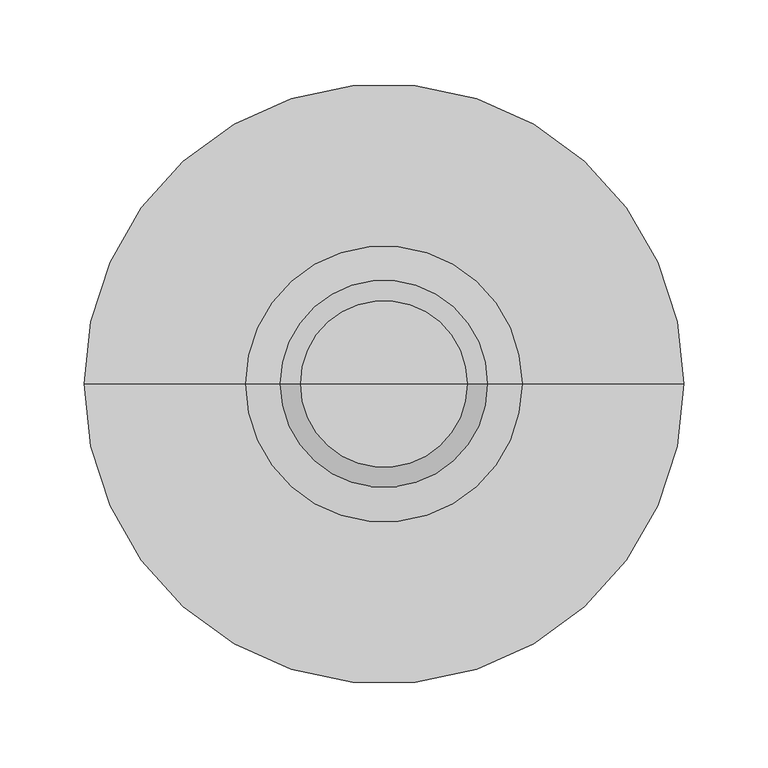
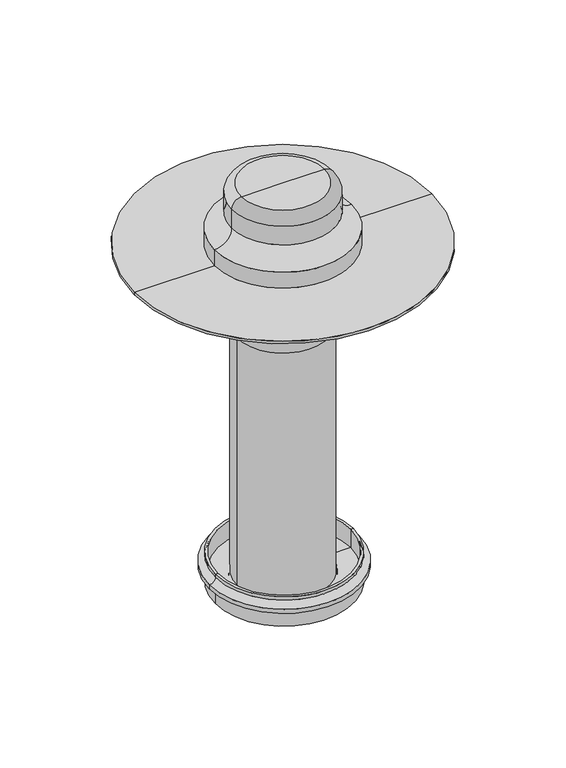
"""IFC4 building model written with IfcOpenShell, lengths in millimetres: flow terminal geometry, BIMLIB_НадставнойЭлемент_Fachmann_VMN : 110х450."""

from ifc_helpers import new_model, si_unit, point, frame, origin, origin_with_axes, place, context, project, spatial, polyline, circle_curve, ellipse_curve, trimmed, source, transform, mapped, element, save
from ifc_brep_helpers import plane_surface, cylinder_surface, revolved_surface, advanced_brep


def flow_terminal_1fee66b7(model_context):
    return source(origin(), model_context, "Body", "AdvancedBrep", [
        advanced_brep(
        [(-53.5, 0.0, -424.7), (56.5, 0.0, -424.7), (56.5, 0.0, -410.7), (-53.5, 0.0, -410.7), (-56.5, 0.0, -424.7), (59.5, 0.0, -424.7), (-56.5, 0.0, -413.7), (59.5, 0.0, -413.7), (-78.0, 0.0, -413.7), (81.0, 0.0, -413.7), (-78.0, 0.0, -424.7), (81.0, 0.0, -424.7), (-81.0, 0.0, -424.7), (84.0, 0.0, -424.7), (-81.0, 0.0, -403.7), (84.0, 0.0, -403.7), (-88.0, 0.0, -403.7), (91.0, 0.0, -403.7), (-88.0, 0.0, -398.7), (91.0, 0.0, -398.7), (-81.0, 0.0, -391.7), (84.0, 0.0, -391.7), (-81.0, 0.0, -387.7), (84.0, 0.0, -387.7), (-78.0, 0.0, -387.7), (81.0, 0.0, -387.7), (-78.0, 0.0, -410.7), (81.0, 0.0, -410.7)],
        [
            (0, 1, circle_curve(frame((1.5, 0.0, -424.7), z_axis=(0.0, 0.0, -1.0), x_axis=(1.0, 0.0, 0.0)), 55.0)),
            (1, 2),
            (2, 3, circle_curve(frame((1.5, 0.0, -410.7), z_axis=(0.0, 0.0, 1.0), x_axis=(1.0, 0.0, 0.0)), 55.0)),
            (3, 0),
            (1, 0, circle_curve(frame((1.5, 0.0, -424.7), z_axis=(0.0, 0.0, -1.0), x_axis=(1.0, 0.0, 0.0)), 55.0)),
            (3, 2, circle_curve(frame((1.5, 0.0, -410.7), z_axis=(0.0, 0.0, 1.0), x_axis=(1.0, 0.0, 0.0)), 55.0)),
            (4, 5, circle_curve(frame((1.5, 0.0, -424.7), z_axis=(0.0, 0.0, -1.0), x_axis=(1.0, 0.0, 0.0)), 58.0)),
            (5, 1),
            (0, 4),
            (5, 4, circle_curve(frame((1.5, 0.0, -424.7), z_axis=(0.0, 0.0, -1.0), x_axis=(1.0, 0.0, 0.0)), 58.0)),
            (6, 7, circle_curve(frame((1.5, 0.0, -413.7), z_axis=(0.0, 0.0, -1.0), x_axis=(1.0, 0.0, 0.0)), 58.0)),
            (7, 5),
            (4, 6),
            (7, 6, circle_curve(frame((1.5, 0.0, -413.7), z_axis=(0.0, 0.0, -1.0), x_axis=(1.0, 0.0, 0.0)), 58.0)),
            (8, 9, circle_curve(frame((1.5, 0.0, -413.7), z_axis=(0.0, 0.0, -1.0), x_axis=(1.0, 0.0, 0.0)), 79.5)),
            (9, 7),
            (6, 8),
            (9, 8, circle_curve(frame((1.5, 0.0, -413.7), z_axis=(0.0, 0.0, -1.0), x_axis=(1.0, 0.0, 0.0)), 79.5)),
            (10, 11, circle_curve(frame((1.5, 0.0, -424.7), z_axis=(0.0, 0.0, -1.0), x_axis=(1.0, 0.0, 0.0)), 79.5)),
            (11, 9),
            (8, 10),
            (11, 10, circle_curve(frame((1.5, 0.0, -424.7), z_axis=(0.0, 0.0, -1.0), x_axis=(1.0, 0.0, 0.0)), 79.5)),
            (12, 13, circle_curve(frame((1.5, 0.0, -424.7), z_axis=(0.0, 0.0, -1.0), x_axis=(1.0, 0.0, 0.0)), 82.5)),
            (13, 11),
            (10, 12),
            (13, 12, circle_curve(frame((1.5, 0.0, -424.7), z_axis=(0.0, 0.0, -1.0), x_axis=(1.0, 0.0, 0.0)), 82.5)),
            (14, 15, circle_curve(frame((1.5, 0.0, -403.7), z_axis=(0.0, 0.0, -1.0), x_axis=(1.0, 0.0, 0.0)), 82.5)),
            (15, 13),
            (12, 14),
            (15, 14, circle_curve(frame((1.5, 0.0, -403.7), z_axis=(0.0, 0.0, -1.0), x_axis=(1.0, 0.0, 0.0)), 82.5)),
            (16, 17, circle_curve(frame((1.5, 0.0, -403.7), z_axis=(0.0, 0.0, -1.0), x_axis=(1.0, 0.0, 0.0)), 89.5)),
            (17, 15),
            (14, 16),
            (17, 16, circle_curve(frame((1.5, 0.0, -403.7), z_axis=(0.0, 0.0, -1.0), x_axis=(1.0, 0.0, 0.0)), 89.5)),
            (18, 19, circle_curve(frame((1.5, 0.0, -398.7), z_axis=(0.0, 0.0, -1.0), x_axis=(1.0, 0.0, 0.0)), 89.5)),
            (19, 17),
            (16, 18),
            (19, 18, circle_curve(frame((1.5, 0.0, -398.7), z_axis=(0.0, 0.0, -1.0), x_axis=(1.0, 0.0, 0.0)), 89.5)),
            (20, 21, circle_curve(frame((1.5, 0.0, -391.7), z_axis=(0.0, 0.0, -1.0), x_axis=(1.0, 0.0, 0.0)), 82.5)),
            (21, 19, circle_curve(frame((91.0, 0.0, -391.7), z_axis=(0.0, -1.0, 0.0), x_axis=(1.0, 0.0, 0.0)), 7.0)),
            (18, 20, circle_curve(frame((-88.0, 0.0, -391.7), z_axis=(0.0, -1.0, 0.0), x_axis=(-1.0, 0.0, 0.0)), 7.0)),
            (21, 20, circle_curve(frame((1.5, 0.0, -391.7), z_axis=(0.0, 0.0, -1.0), x_axis=(1.0, 0.0, 0.0)), 82.5)),
            (22, 23, circle_curve(frame((1.5, 0.0, -387.7), z_axis=(0.0, 0.0, -1.0), x_axis=(1.0, 0.0, 0.0)), 82.5)),
            (23, 21),
            (20, 22),
            (23, 22, circle_curve(frame((1.5, 0.0, -387.7), z_axis=(0.0, 0.0, -1.0), x_axis=(1.0, 0.0, 0.0)), 82.5)),
            (24, 25, circle_curve(frame((1.5, 0.0, -387.7), z_axis=(0.0, 0.0, -1.0), x_axis=(1.0, 0.0, 0.0)), 79.5)),
            (25, 23),
            (22, 24),
            (25, 24, circle_curve(frame((1.5, 0.0, -387.7), z_axis=(0.0, 0.0, -1.0), x_axis=(1.0, 0.0, 0.0)), 79.5)),
            (26, 27, circle_curve(frame((1.5, 0.0, -410.7), z_axis=(0.0, 0.0, -1.0), x_axis=(1.0, 0.0, 0.0)), 79.5)),
            (27, 25),
            (24, 26),
            (27, 26, circle_curve(frame((1.5, 0.0, -410.7), z_axis=(0.0, 0.0, -1.0), x_axis=(1.0, 0.0, 0.0)), 79.5)),
            (2, 27),
            (26, 3),
        ],
        [
            revolved_surface(polyline([(56.5, 0.0, -410.7), (56.5, 0.0, -424.7)]), (1.5, 0.0, -84.7), (0.0, 0.0, 1.0)),
            plane_surface(frame((1.5, 0.0, -424.7), z_axis=(0.0, 0.0, -1.0), x_axis=(1.0, 0.0, 0.0))),
            cylinder_surface(frame((1.5, 0.0, -84.7), z_axis=(0.0, 0.0, 1.0), x_axis=(1.0, 0.0, 0.0)), 58.0),
            plane_surface(frame((1.5, 0.0, -413.7), z_axis=(0.0, 0.0, -1.0), x_axis=(1.0, 0.0, 0.0))),
            revolved_surface(polyline([(81.0, 0.0, -413.7), (81.0, 0.0, -424.7)]), (1.5, 0.0, -84.7), (0.0, 0.0, 1.0)),
            cylinder_surface(frame((1.5, 0.0, -84.7), z_axis=(0.0, 0.0, 1.0), x_axis=(1.0, 0.0, 0.0)), 82.5),
            plane_surface(frame((1.5, 0.0, -403.7), z_axis=(0.0, 0.0, -1.0), x_axis=(1.0, 0.0, 0.0))),
            cylinder_surface(frame((1.5, 0.0, -84.7), z_axis=(0.0, 0.0, 1.0), x_axis=(1.0, 0.0, 0.0)), 89.5),
            revolved_surface(trimmed(ellipse_curve(frame((91.0, 0.0, -391.7), z_axis=(0.0, 1.0, 0.0), x_axis=(1.0, 0.0, 0.0)), 7.0, 7.0), [point((91.0, 0.0, -398.7))], [point((84.0, 0.0, -391.7))], True, "CARTESIAN"), (1.5, 0.0, -84.7), (0.0, 0.0, 1.0)),
            plane_surface(frame((1.5, 0.0, -387.7), z_axis=(0.0, 0.0, 1.0), x_axis=(1.0, 0.0, 0.0))),
            revolved_surface(polyline([(81.0, 0.0, -387.7), (81.0, 0.0, -410.7)]), (1.5, 0.0, -84.7), (0.0, 0.0, 1.0)),
            plane_surface(frame((1.5, 0.0, -410.7), z_axis=(0.0, 0.0, 1.0), x_axis=(1.0, 0.0, 0.0))),
        ],
        [
            (0, [[1, 2, 3, 4]]),
            (0, [[5, -4, 6, -2]]),
            (1, [[7, 8, -1, 9]]),
            (1, [[10, -9, -5, -8]]),
            (2, [[11, 12, -7, 13]]),
            (2, [[14, -13, -10, -12]]),
            (3, [[15, 16, -11, 17]]),
            (3, [[18, -17, -14, -16]]),
            (4, [[19, 20, -15, 21]]),
            (4, [[22, -21, -18, -20]]),
            (1, [[23, 24, -19, 25]]),
            (1, [[26, -25, -22, -24]]),
            (5, [[27, 28, -23, 29]]),
            (5, [[30, -29, -26, -28]]),
            (6, [[31, 32, -27, 33]]),
            (6, [[34, -33, -30, -32]]),
            (7, [[35, 36, -31, 37]]),
            (7, [[38, -37, -34, -36]]),
            (8, [[39, 40, -35, 41]]),
            (8, [[42, -41, -38, -40]]),
            (5, [[43, 44, -39, 45]]),
            (5, [[46, -45, -42, -44]]),
            (9, [[47, 48, -43, 49]]),
            (9, [[50, -49, -46, -48]]),
            (10, [[51, 52, -47, 53]]),
            (10, [[54, -53, -50, -52]]),
            (11, [[-3, 55, -51, 56]]),
            (11, [[-6, -56, -54, -55]]),
        ],
    ),
        advanced_brep(
        [(55.0, 0.0, -430.0), (-55.0, 0.0, -430.0), (-55.0, 0.0, -98.0), (55.0, 0.0, -98.0), (-113.0, 0.0, -9.0), (113.0, 0.0, -9.0), (113.0, 0.0, -32.0), (-113.0, 0.0, -32.0), (0.0, 0.0, 0.0), (138.0, 0.0, 0.0), (-138.0, 0.0, 0.0), (-90.0, 0.0, -32.0), (90.0, 0.0, -32.0), (90.0, 0.0, -40.0), (-90.0, 0.0, -40.0)],
        [
            (0, 1, circle_curve(frame((0.0, 0.0, -430.0), z_axis=(0.0, 0.0, -1.0), x_axis=(-1.0, 0.0, 0.0)), 55.0)),
            (1, 0, circle_curve(frame((0.0, 0.0, -430.0), z_axis=(0.0, 0.0, -1.0), x_axis=(-1.0, 0.0, 0.0)), 55.0)),
            (1, 2),
            (2, 3, circle_curve(frame((0.0, 0.0, -98.0), z_axis=(0.0, 0.0, -1.0), x_axis=(-1.0, 0.0, 0.0)), 55.0)),
            (3, 0),
            (3, 2, circle_curve(frame((0.0, 0.0, -98.0), z_axis=(0.0, 0.0, -1.0), x_axis=(-1.0, 0.0, 0.0)), 55.0)),
            (4, 5, circle_curve(frame((0.0, 0.0, -9.0), z_axis=(0.0, 0.0, -1.0), x_axis=(1.0, 0.0, 0.0)), 113.0)),
            (5, 6),
            (6, 7, circle_curve(frame((0.0, 0.0, -32.0), z_axis=(0.0, 0.0, 1.0), x_axis=(1.0, 0.0, 0.0)), 113.0)),
            (7, 4),
            (5, 4, circle_curve(frame((0.0, 0.0, -9.0), z_axis=(0.0, 0.0, -1.0), x_axis=(1.0, 0.0, 0.0)), 113.0)),
            (7, 6, circle_curve(frame((0.0, 0.0, -32.0), z_axis=(0.0, 0.0, 1.0), x_axis=(1.0, 0.0, 0.0)), 113.0)),
            (8, 9),
            (9, 10, circle_curve(origin_with_axes(), 138.0)),
            (10, 8),
            (10, 9, circle_curve(origin_with_axes(), 138.0)),
            (4, 10),
            (9, 5),
            (11, 12, circle_curve(frame((0.0, 0.0, -32.0), z_axis=(0.0, 0.0, -1.0), x_axis=(1.0, 0.0, 0.0)), 90.0)),
            (12, 13),
            (13, 14, circle_curve(frame((0.0, 0.0, -40.0), z_axis=(0.0, 0.0, 1.0), x_axis=(1.0, 0.0, 0.0)), 90.0)),
            (14, 11),
            (12, 11, circle_curve(frame((0.0, 0.0, -32.0), z_axis=(0.0, 0.0, -1.0), x_axis=(1.0, 0.0, 0.0)), 90.0)),
            (14, 13, circle_curve(frame((0.0, 0.0, -40.0), z_axis=(0.0, 0.0, 1.0), x_axis=(1.0, 0.0, 0.0)), 90.0)),
            (6, 12),
            (11, 7),
            (13, 3),
            (2, 14),
        ],
        [
            plane_surface(frame((-55.0, 0.0, -430.0), z_axis=(0.0, 0.0, -1.0), x_axis=(0.0, 1.0, 0.0))),
            cylinder_surface(frame((0.0, 0.0, -430.0), z_axis=(0.0, 0.0, 1.0), x_axis=(-1.0, 0.0, 0.0)), 55.0),
            cylinder_surface(frame((0.0, 0.0, 159.0), z_axis=(0.0, 0.0, 1.0), x_axis=(1.0, 0.0, 0.0)), 113.0),
            plane_surface(origin_with_axes()),
            revolved_surface(polyline([(113.0, 0.0, -9.0), (138.0, 0.0, 0.0)]), (0.0, 0.0, 159.0), (0.0, 0.0, 1.0)),
            cylinder_surface(frame((0.0, 0.0, 159.0), z_axis=(0.0, 0.0, 1.0), x_axis=(1.0, 0.0, 0.0)), 90.0),
            plane_surface(frame((0.0, 0.0, -32.0), z_axis=(0.0, 0.0, -1.0), x_axis=(1.0, 0.0, 0.0))),
            revolved_surface(polyline([(55.0, 0.0, -98.0), (90.0, 0.0, -40.0)]), (0.0, 0.0, 159.0), (0.0, 0.0, 1.0)),
        ],
        [
            (0, [[1, 2]]),
            (1, [[-2, 3, 4, 5]]),
            (1, [[-1, -5, 6, -3]]),
            (2, [[7, 8, 9, 10]]),
            (2, [[-8, 11, -10, 12]]),
            (3, [[13, 14, 15]]),
            (3, [[-13, -15, 16]]),
            (4, [[-7, 17, -14, 18]]),
            (4, [[-11, -18, -16, -17]]),
            (5, [[19, 20, 21, 22]]),
            (5, [[-20, 23, -22, 24]]),
            (6, [[-9, 25, -19, 26]]),
            (6, [[-12, -26, -23, -25]]),
            (7, [[-21, 27, -4, 28]]),
            (7, [[-24, -28, -6, -27]]),
        ],
    ),
        advanced_brep(
        [(0.0, 0.0, 79.0), (49.5, 0.0, 79.0), (-49.5, 0.0, 79.0), (-178.0, 0.0, 0.0), (178.0, 0.0, 0.0), (0.0, 0.0, 0.0), (-178.0, 0.0, 3.0), (178.0, 0.0, 3.0), (-82.0, 0.0, 3.0), (82.0, 0.0, 3.0), (-61.5, 0.0, 67.0), (61.5, 0.0, 67.0), (61.5, 0.0, 43.5), (-61.5, 0.0, 43.5), (-82.0, 0.0, 23.0), (82.0, 0.0, 23.0)],
        [
            (0, 1),
            (1, 2, circle_curve(frame((0.0, 0.0, 79.0), z_axis=(0.0, 0.0, 1.0), x_axis=(1.0, 0.0, 0.0)), 49.5)),
            (2, 0),
            (2, 1, circle_curve(frame((0.0, 0.0, 79.0), z_axis=(0.0, 0.0, 1.0), x_axis=(1.0, 0.0, 0.0)), 49.5)),
            (3, 4, circle_curve(frame((0.0, 0.0, 0.0), z_axis=(0.0, 0.0, -1.0), x_axis=(1.0, 0.0, 0.0)), 178.0)),
            (4, 5),
            (5, 3),
            (4, 3, circle_curve(frame((0.0, 0.0, 0.0), z_axis=(0.0, 0.0, -1.0), x_axis=(1.0, 0.0, 0.0)), 178.0)),
            (6, 7, circle_curve(frame((0.0, 0.0, 3.0), z_axis=(0.0, 0.0, -1.0), x_axis=(1.0, 0.0, 0.0)), 178.0)),
            (7, 4),
            (3, 6),
            (7, 6, circle_curve(frame((0.0, 0.0, 3.0), z_axis=(0.0, 0.0, -1.0), x_axis=(1.0, 0.0, 0.0)), 178.0)),
            (8, 9, circle_curve(frame((0.0, 0.0, 3.0), z_axis=(0.0, 0.0, -1.0), x_axis=(1.0, 0.0, 0.0)), 82.0)),
            (9, 7),
            (6, 8),
            (9, 8, circle_curve(frame((0.0, 0.0, 3.0), z_axis=(0.0, 0.0, -1.0), x_axis=(1.0, 0.0, 0.0)), 82.0)),
            (10, 11, circle_curve(frame((0.0, 0.0, 67.0), z_axis=(0.0, 0.0, -1.0), x_axis=(1.0, 0.0, 0.0)), 61.5)),
            (11, 12),
            (12, 13, circle_curve(frame((0.0, 0.0, 43.5), z_axis=(0.0, 0.0, 1.0), x_axis=(1.0, 0.0, 0.0)), 61.5)),
            (13, 10),
            (11, 10, circle_curve(frame((0.0, 0.0, 67.0), z_axis=(0.0, 0.0, -1.0), x_axis=(1.0, 0.0, 0.0)), 61.5)),
            (13, 12, circle_curve(frame((0.0, 0.0, 43.5), z_axis=(0.0, 0.0, 1.0), x_axis=(1.0, 0.0, 0.0)), 61.5)),
            (1, 11, circle_curve(frame((49.5, 0.0, 67.0), z_axis=(0.0, 1.0, 0.0), x_axis=(1.0, 0.0, 0.0)), 12.0)),
            (10, 2, circle_curve(frame((-49.5, 0.0, 67.0), z_axis=(0.0, 1.0, 0.0), x_axis=(-1.0, 0.0, 0.0)), 12.0)),
            (14, 15, circle_curve(frame((0.0, 0.0, 23.0), z_axis=(0.0, 0.0, -1.0), x_axis=(1.0, 0.0, 0.0)), 82.0)),
            (15, 9),
            (8, 14),
            (15, 14, circle_curve(frame((0.0, 0.0, 23.0), z_axis=(0.0, 0.0, -1.0), x_axis=(1.0, 0.0, 0.0)), 82.0)),
            (12, 15, circle_curve(frame((82.0, 0.0, 43.5), z_axis=(0.0, -1.0, 0.0), x_axis=(1.0, 0.0, 0.0)), 20.5)),
            (14, 13, circle_curve(frame((-82.0, 0.0, 43.5), z_axis=(0.0, -1.0, 0.0), x_axis=(-1.0, 0.0, 0.0)), 20.5)),
        ],
        [
            plane_surface(frame((0.0, 0.0, 79.0), z_axis=(0.0, 0.0, 1.0), x_axis=(1.0, 0.0, 0.0))),
            plane_surface(frame((0.0, 0.0, 0.0), z_axis=(0.0, 0.0, -1.0), x_axis=(1.0, 0.0, 0.0))),
            cylinder_surface(frame((0.0, 0.0, 229.0), z_axis=(0.0, 0.0, 1.0), x_axis=(1.0, 0.0, 0.0)), 178.0),
            plane_surface(frame((0.0, 0.0, 3.0), z_axis=(0.0, 0.0, 1.0), x_axis=(1.0, 0.0, 0.0))),
            cylinder_surface(frame((0.0, 0.0, 229.0), z_axis=(0.0, 0.0, 1.0), x_axis=(1.0, 0.0, 0.0)), 61.5),
            revolved_surface(trimmed(ellipse_curve(frame((49.5, 0.0, 67.0), z_axis=(0.0, -1.0, 0.0), x_axis=(1.0, 0.0, 0.0)), 12.0, 12.0), [point((61.5, 0.0, 67.0))], [point((49.5, 0.0, 79.0))], True, "CARTESIAN"), (0.0, 0.0, 229.0), (0.0, 0.0, 1.0)),
            cylinder_surface(frame((0.0, 0.0, 229.0), z_axis=(0.0, 0.0, 1.0), x_axis=(1.0, 0.0, 0.0)), 82.0),
            revolved_surface(trimmed(ellipse_curve(frame((82.0, 0.0, 43.5), z_axis=(0.0, 1.0, 0.0), x_axis=(1.0, 0.0, 0.0)), 20.5, 20.5), [point((82.0, 0.0, 23.0))], [point((61.5, 0.0, 43.5))], True, "CARTESIAN"), (0.0, 0.0, 229.0), (0.0, 0.0, 1.0)),
        ],
        [
            (0, [[1, 2, 3]]),
            (0, [[-3, 4, -1]]),
            (1, [[5, 6, 7]]),
            (1, [[8, -7, -6]]),
            (2, [[9, 10, -5, 11]]),
            (2, [[12, -11, -8, -10]]),
            (3, [[13, 14, -9, 15]]),
            (3, [[16, -15, -12, -14]]),
            (4, [[17, 18, 19, 20]]),
            (4, [[21, -20, 22, -18]]),
            (5, [[-2, 23, -17, 24]]),
            (5, [[-4, -24, -21, -23]]),
            (6, [[25, 26, -13, 27]]),
            (6, [[28, -27, -16, -26]]),
            (7, [[-19, 29, -25, 30]]),
            (7, [[-22, -30, -28, -29]]),
        ],
    ),
    ])


if __name__ == "__main__":
    model = new_model("IFC4")
    model_context = context("Model", 3, world=origin())
    ifc_project = project(units=[si_unit("LENGTHUNIT", "METRE", prefix="MILLI")], contexts=[model_context])
    site = spatial("IfcSite", under=ifc_project)
    building = spatial("IfcBuilding", under=site)
    placement = place(None, origin())
    flow_terminal_shape = flow_terminal_1fee66b7(model_context)
    element("IfcFlowTerminal", 1, ObjectType="BIMLIB_НадставнойЭлемент_Fachmann_VMN : 110х450", at=placement, inside=building, context=model_context, shape_type="MappedRepresentation", body=[
        mapped(flow_terminal_shape, transform((0.0, 0.0, 0.0), x_axis=(1.0, 0.0, 0.0), y_axis=(0.0, 1.0, 0.0), z_axis=(0.0, 0.0, 1.0))),
    ])
    save(model, "model.ifc")
